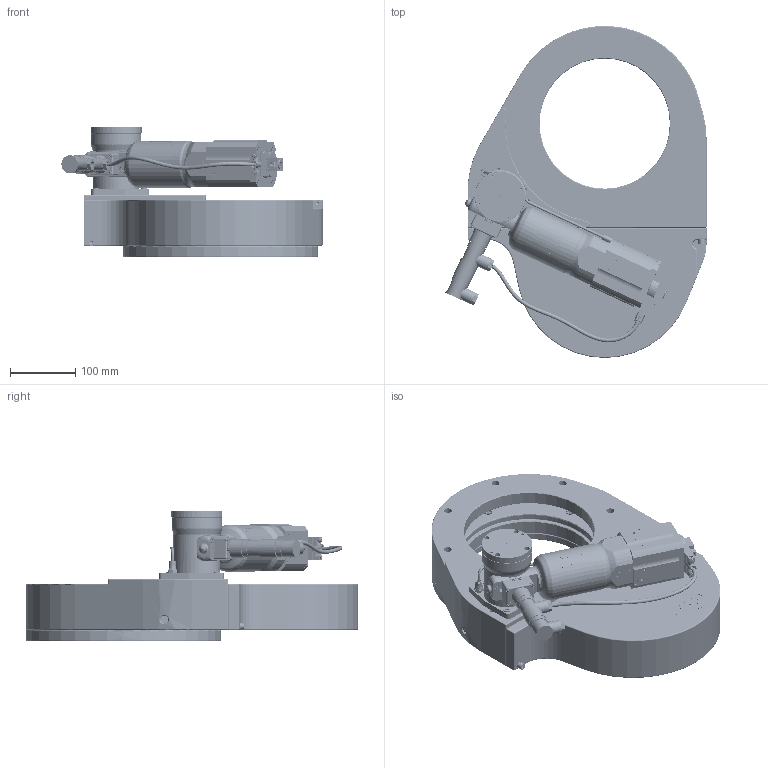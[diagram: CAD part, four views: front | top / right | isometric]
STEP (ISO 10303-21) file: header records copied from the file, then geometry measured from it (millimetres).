
FILE_DESCRIPTION(/* description */ (''),/* implementation_level */ '2;1');
FILE_NAME(/* name */ '1049035200_203.stp',/* time_stamp */ '2011-03-28T16:05:23+02:00',/* author */ (''),/* organization */ (''),/* preprocessor_version */ 'ST-DEVELOPER v11',/* originating_system */ 'SIEMENS UGS NX 6.0',/* authorisation */ '');
FILE_SCHEMA (('CONFIG_CONTROL_DESIGN'));
Products named in the file (72): N-8406-013_3.2; N-8406-013_2.1; 73662-01.1; 202839_1.2; N-6121-039.1; N-6099-417.1; 69252-01_15176ID; 69252-01_15089ID; 75429-01_15100ID; 82555-01; N-8210-239; 82610-01; N-8406-007; N-8406-551; N-6030-011; 69672-01; N-8406-006_1; 77379-01.1; T-9001-055.1; N-6016-478.2; 69846-01; n-6024-531; N-8504-005.2; N-7636-200.2; N-6091-494.1; 264466.2; 387801_15139ID; 385780; 250743; N-6072-439.1; N-7607-350.2; N-5002-497.1; N-6091-462.1; N-7607-023.1; 245276.2; N-6121-017.2; N-6071-446.1; N-6005-439_1.1; 232959.1; 242117.8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
Assembly tree (130 placements, depth 6):
  331800.2
    310758.3_NX-ARRAGMNTEXPLOSIONE
      222717.1  x2
      244112.1  x2
      265356.2
      245282.6
      218188.1  x3
      242111.11
      242118.14
      247374.3
      244067.5
      265557.2
      245471.2
      244151.3
      245266.7
      310619.1
      310276.1
      242117.8
      232959.1  x4
      N-6005-439_1.1  x8
      N-6071-446.1
      N-6121-017.2  x4
      245276.2
      N-7607-023.1
      N-6091-462.1
      N-5002-497.1
      N-7607-350.2
      N-6072-439.1
      250743
      385780
    228777  x11
    248240.11
    310931.1
    228776.1  x2
    319031.1
      387801_15139ID
    N-6090-119.1  x8
    n-6134-408  x2
    264465.2
      264466.2
      N-6091-494.1  x2
      N-6090-119.1  x8
      N-7636-200.2
    400460_MODEL
      310926.1
        N-8504-005.2
        71852-r1
          N-8406-006_1
          69672-01
          N-6030-011  x4
          N-8406-551  x2
          N-8406-007
          82610-01
          N-8210-239  x4
          82555-01
        n-6024-531  x4
        69428-r1_MODEL
          75429-01_15100ID
          69252-01_15089ID
          69252-01_15176ID
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Bounding box: 401.19 x 510 x 199.8 mm (x, y, z)
Volume: 5722699.8 mm3; surface area: 1230715.5 mm2
Topology: 184 solids, 184 shells, 4469 faces, 10607 edges, 6806 vertices
Faces by surface type: plane 2280, cylinder 1181, bspline 346, cone 312, torus 176, extrusion 131, sphere 41, revolution 2
Full cylindrical faces by diameter (mm): 0.5 x2, 1 x9, 1.2 x10, 1.4 x2, 1.5 x13, 1.6 x6, 1.95 x4, 2 x5, 2.115 x4, 2.2 x4, 2.25 x4, 2.3 x5, 2.5 x31, 2.7 x4, 2.8 x5, 2.856 x4, 3 x19, 3.2 x6, 3.26 x9, 3.3 x17, 3.4 x4, 3.5 x9, 3.8 x1, 3.9 x4, 4 x39, 4.025 x1, 4.054 x1, 4.16 x7, 4.2 x16, 4.5 x8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
Entity records: 131608 total; most frequent: CARTESIAN_POINT 39547, DIRECTION 16498, ORIENTED_EDGE 15836, EDGE_CURVE 7918, AXIS2_PLACEMENT_3D 6303, VERTEX_POINT 5738, EDGE_LOOP 5410, VECTOR 3890
